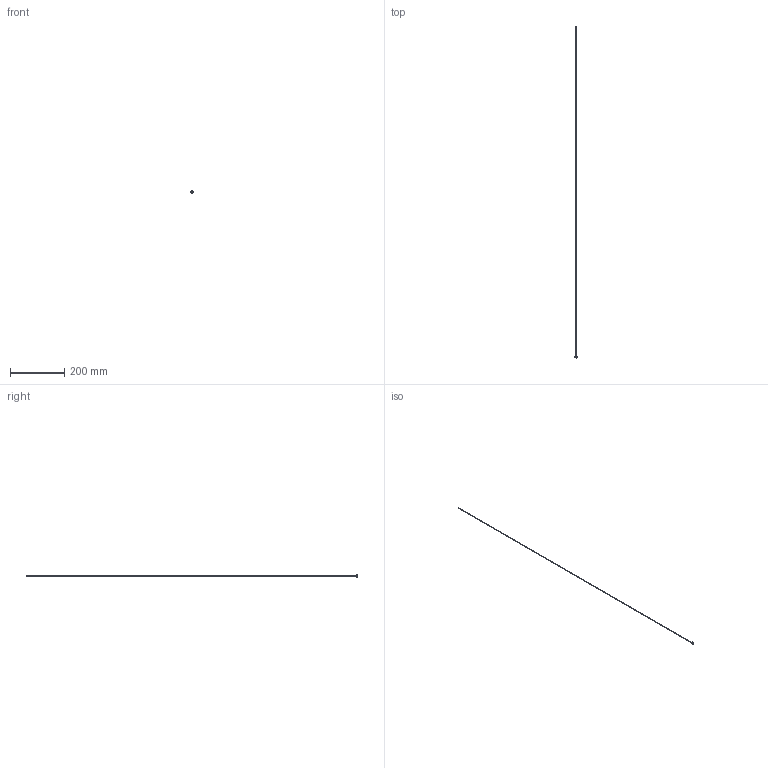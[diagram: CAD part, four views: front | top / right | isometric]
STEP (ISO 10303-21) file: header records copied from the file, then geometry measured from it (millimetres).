
FILE_DESCRIPTION(/* description */ (''),/* implementation_level */ '2;1');
FILE_NAME(/* name */ 'C:/Users/drich/Desktop/PT16-109-48 v1.step',/* time_stamp */ '2019-12-27T15:17:44-06:00',/* author */ (''),/* organization */ (''),/* preprocessor_version */ 'ST-DEVELOPER v18',/* originating_system */ 'Autodesk Translation Framework v8.12.0.6',/* authorisation */ '');
FILE_SCHEMA (('AUTOMOTIVE_DESIGN { 1 0 10303 214 3 1 1 }'));
Length unit declared in the file: inch
Products named in the file (1): PT16-109-48
Bounding box: 7.62 x 1219.2 x 7.62 mm (x, y, z)
Volume: 1980.1 mm3; surface area: 20033.8 mm2
Topology: 1 solids, 1 shells, 19 faces, 48 edges, 34 vertices
Faces by surface type: plane 11, cylinder 4, torus 2, cone 2
Full cylindrical faces by diameter (mm): 2.413 x1, 2.769 x1, 4.724 x1, 7.616 x1
Entity records: 633 total; most frequent: DIRECTION 112, CARTESIAN_POINT 102, ORIENTED_EDGE 96, EDGE_CURVE 48, AXIS2_PLACEMENT_3D 44, VERTEX_POINT 34, CIRCLE 24, EDGE_LOOP 24
